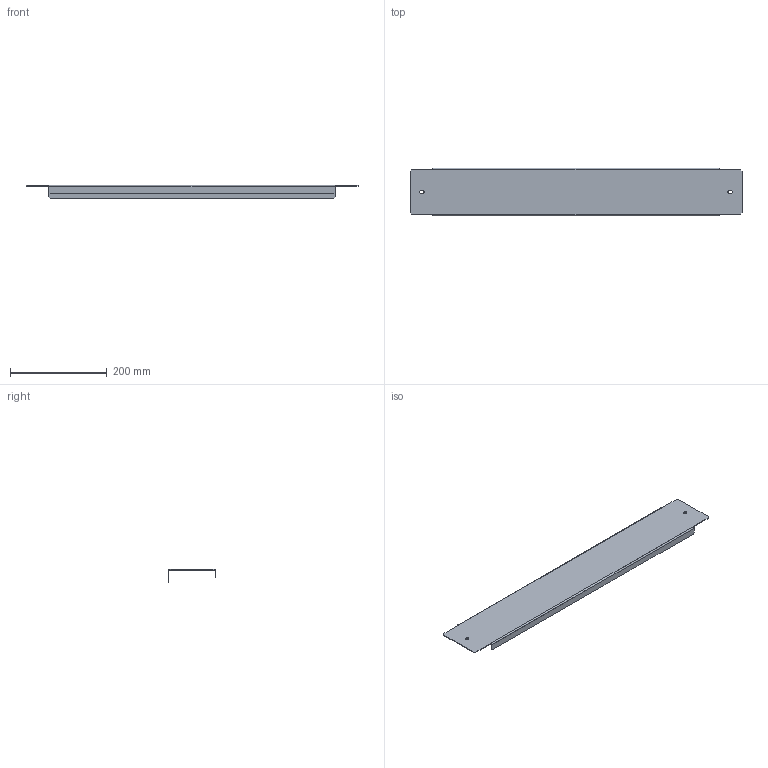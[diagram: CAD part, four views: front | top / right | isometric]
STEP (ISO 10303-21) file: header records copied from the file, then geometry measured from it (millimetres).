
FILE_DESCRIPTION (( 'STEP AP203' ), '1' );
FILE_NAME ('ZA 80 Ïàíåëü öîêîëÿ.STEP', '2012-11-20T05:15:17', ( 'system' ), ( '' ), 'SwSTEP 2.0', 'SolidWorks 2012', '' );
FILE_SCHEMA (( 'CONFIG_CONTROL_DESIGN' ));
Length unit declared in the file: millimetre
Products named in the file (1): ZA 80 Ïàíåëü öîêîëÿ
Bounding box: 686.5 x 99 x 27 mm (x, y, z)
Volume: 126206.8 mm3; surface area: 182651.2 mm2
Topology: 1 solids, 1 shells, 44 faces, 110 edges, 68 vertices
Faces by surface type: plane 34, cylinder 10
Entity records: 1371 total; most frequent: CARTESIAN_POINT 223, DIRECTION 220, ORIENTED_EDGE 220, EDGE_CURVE 110, VECTOR 90, LINE 90, VERTEX_POINT 68, AXIS2_PLACEMENT_3D 65
